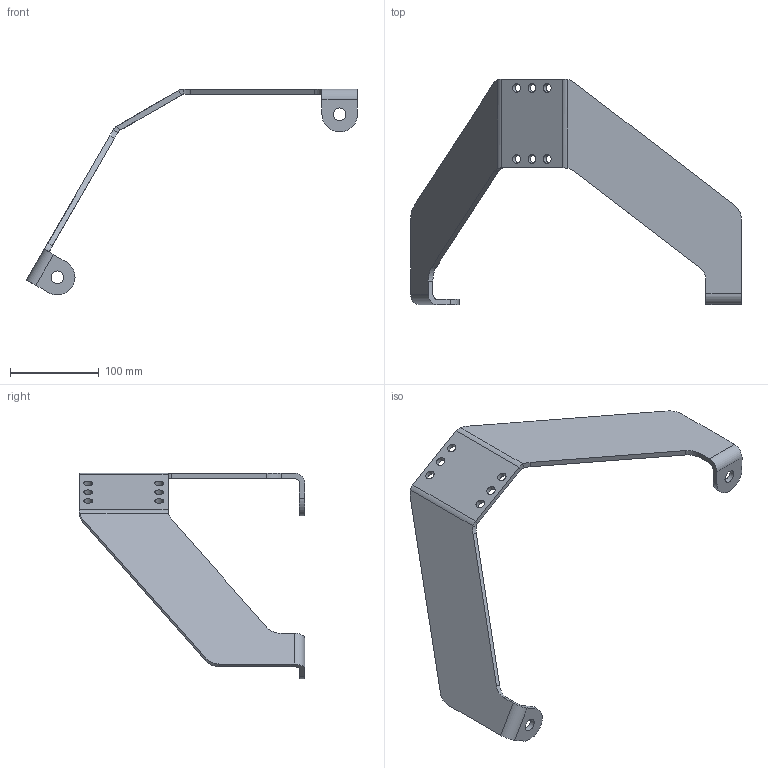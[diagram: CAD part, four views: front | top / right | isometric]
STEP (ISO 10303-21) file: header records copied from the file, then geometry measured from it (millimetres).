
FILE_DESCRIPTION((''),'2;1');
FILE_NAME('X:\Ritarkiv\STEP-Carryline Standarddelar\100-1155.stp','2009-05-26T09:50:28',('marcus'),(''),'Autodesk Inventor 2009','Autodesk Inventor 2009','');
FILE_SCHEMA(('AUTOMOTIVE_DESIGN { 1 0 10303 214 1 1 1 1 }'));
Length unit declared in the file: millimetre
Products named in the file (2): Assembly3; 100-1155
Assembly tree (1 placements, depth 2):
  Assembly3
    100-1155
Bounding box: 372.89 x 254 x 232.18 mm (x, y, z)
Volume: 310127.1 mm3; surface area: 114270.1 mm2
Topology: 1 solids, 1 shells, 50 faces, 140 edges, 92 vertices
Faces by surface type: plane 20, cylinder 18, bspline 12
Entity records: 2348 total; most frequent: CARTESIAN_POINT 1081, ORIENTED_EDGE 248, DIRECTION 242, EDGE_CURVE 124, AXIS2_PLACEMENT_3D 85, VERTEX_POINT 84, EDGE_LOOP 74, VECTOR 72
